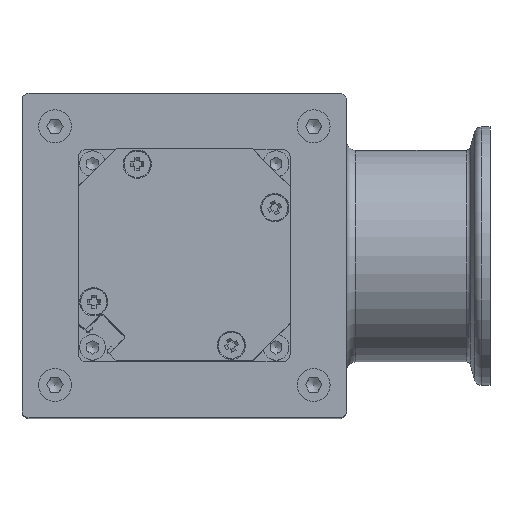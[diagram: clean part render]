
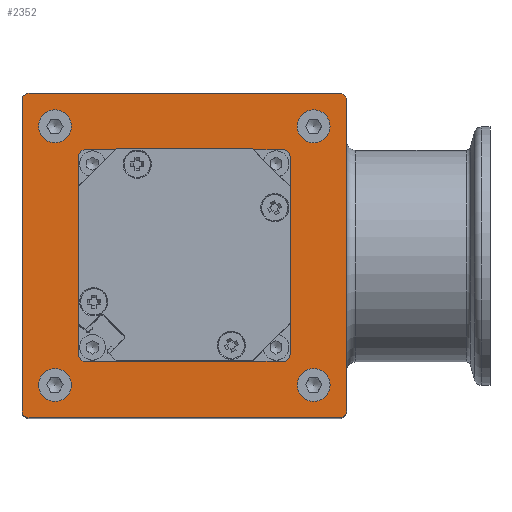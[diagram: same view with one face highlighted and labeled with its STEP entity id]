
A CAD part, top view. The second image highlights one B-rep face of the part: STEP entity #2352.
In plain terms, the highlighted planar face has unit normal (0, 0, 1).
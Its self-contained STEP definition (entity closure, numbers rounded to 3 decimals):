
#2352=ADVANCED_FACE('',(#4110,#4111,#4112,#4113,#4114,#4115,#4116,#4117,
#4118,#4119),#2839,.F.);
#2839=PLANE('',#9508);
#3082=LINE('',#12558,#3586);
#3083=LINE('',#12563,#3587);
#3084=LINE('',#12567,#3588);
#3085=LINE('',#12571,#3589);
#3586=VECTOR('',#10351,1.);
#3587=VECTOR('',#10354,1.);
#3588=VECTOR('',#10357,1.);
#3589=VECTOR('',#10360,1.);
#4110=FACE_BOUND('',#4537,.T.);
#4111=FACE_BOUND('',#4538,.T.);
#4112=FACE_BOUND('',#4539,.T.);
#4113=FACE_BOUND('',#4540,.T.);
#4114=FACE_BOUND('',#4541,.T.);
#4115=FACE_BOUND('',#4542,.T.);
#4116=FACE_BOUND('',#4543,.T.);
#4117=FACE_BOUND('',#4544,.T.);
#4118=FACE_BOUND('',#4545,.T.);
#4119=FACE_BOUND('',#4546,.T.);
#4537=EDGE_LOOP('',(#5246));
#4538=EDGE_LOOP('',(#5247));
#4539=EDGE_LOOP('',(#5248));
#4540=EDGE_LOOP('',(#5249));
#4541=EDGE_LOOP('',(#5250));
#4542=EDGE_LOOP('',(#5251));
#4543=EDGE_LOOP('',(#5252));
#4544=EDGE_LOOP('',(#5253,#5254,#5255,#5256,#5257,#5258,#5259,#5260));
#4545=EDGE_LOOP('',(#5261));
#4546=EDGE_LOOP('',(#5262,#5263));
#5246=ORIENTED_EDGE('',*,*,#8096,.T.);
#5247=ORIENTED_EDGE('',*,*,#8097,.T.);
#5248=ORIENTED_EDGE('',*,*,#8098,.T.);
#5249=ORIENTED_EDGE('',*,*,#8099,.T.);
#5250=ORIENTED_EDGE('',*,*,#8100,.F.);
#5251=ORIENTED_EDGE('',*,*,#8101,.T.);
#5252=ORIENTED_EDGE('',*,*,#8102,.T.);
#5253=ORIENTED_EDGE('',*,*,#8103,.F.);
#5254=ORIENTED_EDGE('',*,*,#8104,.F.);
#5255=ORIENTED_EDGE('',*,*,#8105,.F.);
#5256=ORIENTED_EDGE('',*,*,#8106,.F.);
#5257=ORIENTED_EDGE('',*,*,#8107,.F.);
#5258=ORIENTED_EDGE('',*,*,#8108,.F.);
#5259=ORIENTED_EDGE('',*,*,#8109,.F.);
#5260=ORIENTED_EDGE('',*,*,#8110,.F.);
#5261=ORIENTED_EDGE('',*,*,#8111,.F.);
#5262=ORIENTED_EDGE('',*,*,#8112,.F.);
#5263=ORIENTED_EDGE('',*,*,#8113,.F.);
#7330=VERTEX_POINT('',#12545);
#7331=VERTEX_POINT('',#12547);
#7332=VERTEX_POINT('',#12549);
#7333=VERTEX_POINT('',#12551);
#7334=VERTEX_POINT('',#12553);
#7335=VERTEX_POINT('',#12555);
#7336=VERTEX_POINT('',#12557);
#7337=VERTEX_POINT('',#12559);
#7338=VERTEX_POINT('',#12560);
#7339=VERTEX_POINT('',#12562);
#7340=VERTEX_POINT('',#12564);
#7341=VERTEX_POINT('',#12566);
#7342=VERTEX_POINT('',#12568);
#7343=VERTEX_POINT('',#12570);
#7344=VERTEX_POINT('',#12572);
#7345=VERTEX_POINT('',#12575);
#7346=VERTEX_POINT('',#12577);
#7347=VERTEX_POINT('',#12578);
#8096=EDGE_CURVE('',#7330,#7330,#9138,.T.);
#8097=EDGE_CURVE('',#7331,#7331,#9139,.T.);
#8098=EDGE_CURVE('',#7332,#7332,#9140,.T.);
#8099=EDGE_CURVE('',#7333,#7333,#9141,.T.);
#8100=EDGE_CURVE('',#7334,#7334,#9142,.T.);
#8101=EDGE_CURVE('',#7335,#7335,#9143,.T.);
#8102=EDGE_CURVE('',#7336,#7336,#9144,.T.);
#8103=EDGE_CURVE('',#7337,#7338,#3082,.T.);
#8104=EDGE_CURVE('',#7339,#7337,#9145,.T.);
#8105=EDGE_CURVE('',#7340,#7339,#3083,.T.);
#8106=EDGE_CURVE('',#7341,#7340,#9146,.T.);
#8107=EDGE_CURVE('',#7342,#7341,#3084,.T.);
#8108=EDGE_CURVE('',#7343,#7342,#9147,.T.);
#8109=EDGE_CURVE('',#7344,#7343,#3085,.T.);
#8110=EDGE_CURVE('',#7338,#7344,#9148,.T.);
#8111=EDGE_CURVE('',#7345,#7345,#9149,.T.);
#8112=EDGE_CURVE('',#7346,#7347,#9150,.T.);
#8113=EDGE_CURVE('',#7347,#7346,#9151,.T.);
#9138=CIRCLE('',#9494,1.25);
#9139=CIRCLE('',#9495,1.25);
#9140=CIRCLE('',#9496,1.25);
#9141=CIRCLE('',#9497,1.25);
#9142=CIRCLE('',#9498,2.25);
#9143=CIRCLE('',#9499,2.25);
#9144=CIRCLE('',#9500,2.25);
#9145=CIRCLE('',#9501,1.5);
#9146=CIRCLE('',#9502,1.5);
#9147=CIRCLE('',#9503,1.5);
#9148=CIRCLE('',#9504,1.5);
#9149=CIRCLE('',#9505,2.25);
#9150=CIRCLE('',#9506,2.);
#9151=CIRCLE('',#9507,19.6);
#9494=AXIS2_PLACEMENT_3D('',#12544,#10337,#10338);
#9495=AXIS2_PLACEMENT_3D('',#12546,#10339,#10340);
#9496=AXIS2_PLACEMENT_3D('',#12548,#10341,#10342);
#9497=AXIS2_PLACEMENT_3D('',#12550,#10343,#10344);
#9498=AXIS2_PLACEMENT_3D('',#12552,#10345,#10346);
#9499=AXIS2_PLACEMENT_3D('',#12554,#10347,#10348);
#9500=AXIS2_PLACEMENT_3D('',#12556,#10349,#10350);
#9501=AXIS2_PLACEMENT_3D('',#12561,#10352,#10353);
#9502=AXIS2_PLACEMENT_3D('',#12565,#10355,#10356);
#9503=AXIS2_PLACEMENT_3D('',#12569,#10358,#10359);
#9504=AXIS2_PLACEMENT_3D('',#12573,#10361,#10362);
#9505=AXIS2_PLACEMENT_3D('',#12574,#10363,#10364);
#9506=AXIS2_PLACEMENT_3D('',#12576,#10365,#10366);
#9507=AXIS2_PLACEMENT_3D('',#12579,#10367,#10368);
#9508=AXIS2_PLACEMENT_3D('',#12580,#10369,#10370);
#10337=DIRECTION('',(0.,0.,-1.));
#10338=DIRECTION('',(0.,1.,0.));
#10339=DIRECTION('',(0.,0.,-1.));
#10340=DIRECTION('',(1.,0.,0.));
#10341=DIRECTION('',(0.,0.,-1.));
#10342=DIRECTION('',(0.,-1.,0.));
#10343=DIRECTION('',(0.,0.,-1.));
#10344=DIRECTION('',(-1.,0.,0.));
#10345=DIRECTION('',(0.,0.,1.));
#10346=DIRECTION('',(-1.,0.,0.));
#10347=DIRECTION('',(0.,0.,-1.));
#10348=DIRECTION('',(-1.,0.,0.));
#10349=DIRECTION('',(0.,0.,-1.));
#10350=DIRECTION('',(-1.,0.,0.));
#10351=DIRECTION('',(0.,-1.,0.));
#10352=DIRECTION('',(0.,0.,-1.));
#10353=DIRECTION('',(1.,0.,0.));
#10354=DIRECTION('',(1.,0.,0.));
#10355=DIRECTION('',(0.,0.,-1.));
#10356=DIRECTION('',(-1.,0.,0.));
#10357=DIRECTION('',(0.,1.,0.));
#10358=DIRECTION('',(0.,0.,-1.));
#10359=DIRECTION('',(-1.,0.,0.));
#10360=DIRECTION('',(-1.,0.,0.));
#10361=DIRECTION('',(0.,0.,-1.));
#10362=DIRECTION('',(1.,0.,0.));
#10363=DIRECTION('',(0.,0.,1.));
#10364=DIRECTION('',(-1.,0.,0.));
#10365=DIRECTION('',(0.,0.,1.));
#10366=DIRECTION('',(-1.,0.,0.));
#10367=DIRECTION('',(0.,0.,1.));
#10368=DIRECTION('',(1.,0.,0.));
#10369=DIRECTION('',(0.,0.,-1.));
#10370=DIRECTION('',(-1.,0.,0.));
#12544=CARTESIAN_POINT('',(19.5,-19.5,11.));
#12545=CARTESIAN_POINT('',(19.5,-18.25,11.));
#12546=CARTESIAN_POINT('',(-19.5,-19.5,11.));
#12547=CARTESIAN_POINT('',(-18.25,-19.5,11.));
#12548=CARTESIAN_POINT('',(-19.5,19.5,11.));
#12549=CARTESIAN_POINT('',(-19.5,18.25,11.));
#12550=CARTESIAN_POINT('',(19.5,19.5,11.));
#12551=CARTESIAN_POINT('',(18.25,19.5,11.));
#12552=CARTESIAN_POINT('',(-27.5,27.5,11.));
#12553=CARTESIAN_POINT('',(-29.75,27.5,11.));
#12554=CARTESIAN_POINT('',(-27.5,-27.5,11.));
#12555=CARTESIAN_POINT('',(-29.75,-27.5,11.));
#12556=CARTESIAN_POINT('',(27.5,27.5,11.));
#12557=CARTESIAN_POINT('',(25.25,27.5,11.));
#12558=CARTESIAN_POINT('',(34.5,33.,11.));
#12559=CARTESIAN_POINT('',(34.5,33.,11.));
#12560=CARTESIAN_POINT('',(34.5,-33.,11.));
#12561=CARTESIAN_POINT('',(33.,33.,11.));
#12562=CARTESIAN_POINT('',(33.,34.5,11.));
#12563=CARTESIAN_POINT('',(-33.,34.5,11.));
#12564=CARTESIAN_POINT('',(-33.,34.5,11.));
#12565=CARTESIAN_POINT('',(-33.,33.,11.));
#12566=CARTESIAN_POINT('',(-34.5,33.,11.));
#12567=CARTESIAN_POINT('',(-34.5,-33.,11.));
#12568=CARTESIAN_POINT('',(-34.5,-33.,11.));
#12569=CARTESIAN_POINT('',(-33.,-33.,11.));
#12570=CARTESIAN_POINT('',(-33.,-34.5,11.));
#12571=CARTESIAN_POINT('',(33.,-34.5,11.));
#12572=CARTESIAN_POINT('',(33.,-34.5,11.));
#12573=CARTESIAN_POINT('',(33.,-33.,11.));
#12574=CARTESIAN_POINT('',(27.5,-27.5,11.));
#12575=CARTESIAN_POINT('',(25.25,-27.5,11.));
#12576=CARTESIAN_POINT('',(0.,18.6,11.));
#12577=CARTESIAN_POINT('',(1.776,19.519,11.));
#12578=CARTESIAN_POINT('',(-1.776,19.519,11.));
#12579=CARTESIAN_POINT('',(0.,0.,11.));
#12580=CARTESIAN_POINT('',(33.,-33.,11.));
